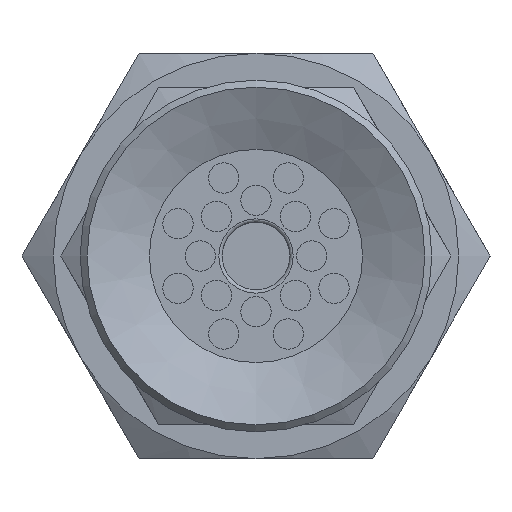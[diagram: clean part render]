
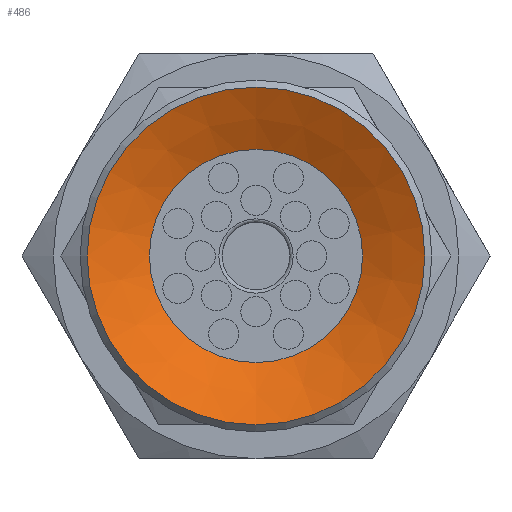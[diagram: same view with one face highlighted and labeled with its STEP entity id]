
A CAD part, front view. The second image highlights one B-rep face of the part: STEP entity #486.
In plain terms, the highlighted conical face has half-angle 64 degrees and reference radius 5 mm.
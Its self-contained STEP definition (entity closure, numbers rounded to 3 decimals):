
#486=ADVANCED_FACE('',(#770,#771),#772,.F.);
#770=FACE_BOUND('',#1135,.T.);
#771=FACE_OUTER_BOUND('',#1136,.T.);
#772=CONICAL_SURFACE('',#1137,5.0,1.117);
#1135=EDGE_LOOP('',(#1869));
#1136=EDGE_LOOP('',(#1870));
#1137=AXIS2_PLACEMENT_3D('',#1871,#1872,#1873);
#1869=ORIENTED_EDGE('',*,*,#2274,.T.);
#1870=ORIENTED_EDGE('',*,*,#2275,.F.);
#1871=CARTESIAN_POINT('',(0.0,0.,0.));
#1872=DIRECTION('',(0.0,0.,-1.0));
#1873=DIRECTION('',(0.0,1.0,0.));
#2274=EDGE_CURVE('',#2609,#2609,#2610,.T.);
#2275=EDGE_CURVE('',#2611,#2611,#2612,.T.);
#2609=VERTEX_POINT('',#3365);
#2610=CIRCLE('',#3366,3.155);
#2611=VERTEX_POINT('',#3367);
#2612=CIRCLE('',#3368,5.0);
#3365=CARTESIAN_POINT('',(0.0,-3.155,0.9));
#3366=AXIS2_PLACEMENT_3D('',#3717,#3718,#3719);
#3367=CARTESIAN_POINT('',(0.0,-5.0,0.));
#3368=AXIS2_PLACEMENT_3D('',#3720,#3721,#3722);
#3717=CARTESIAN_POINT('',(0.0,0.,0.9));
#3718=DIRECTION('',(0.0,0.,1.0));
#3719=DIRECTION('',(0.0,-1.0,0.));
#3720=CARTESIAN_POINT('',(0.0,0.,0.));
#3721=DIRECTION('',(0.0,0.,1.0));
#3722=DIRECTION('',(0.0,-1.0,0.));
